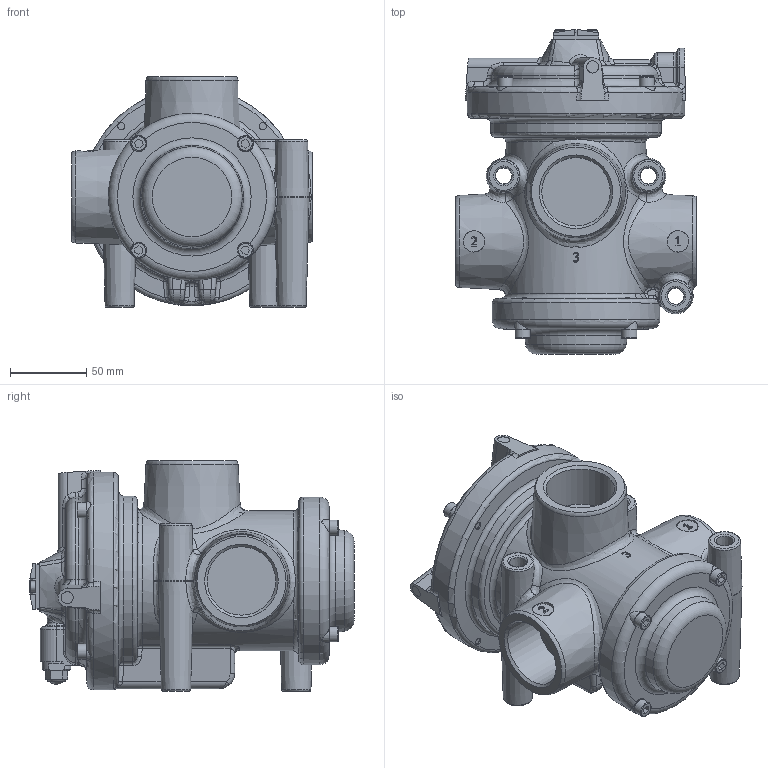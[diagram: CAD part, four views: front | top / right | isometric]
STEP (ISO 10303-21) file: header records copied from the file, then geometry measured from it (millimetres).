
FILE_DESCRIPTION(/* description */ ('V.OTT. x VUOTO 3/2 NC-NA PNEUM-MOLLA'),/* implementation_level */ '2;1');
FILE_NAME(/* name */ 'C:\PNX_VAULTFOLDER\Area Tecnica\Disegni\VARIE-3D\Componenti\1900 (vuoto)\N776-V_32_11_1.stp',/* time_stamp */ '2018-06-18T15:52:05+02:00',/* author */ ('maniean1'),/* organization */ ('Pneumax S.p.A.'),/* preprocessor_version */ 'ST-DEVELOPER v16.5',/* originating_system */ 'Autodesk Inventor 2017',/* authorisation */ '');
FILE_SCHEMA (('AUTOMOTIVE_DESIGN { 1 0 10303 214 3 1 1 }'));
Length unit declared in the file: millimetre
Products named in the file (1): N776/V.32.11.1
Bounding box: 158 x 213 x 151.5 mm (x, y, z)
Volume: 1898202.7 mm3; surface area: 167980.9 mm2
Topology: 1 solids, 20 shells, 929 faces, 2340 edges, 1481 vertices
Faces by surface type: plane 369, bspline 198, cylinder 196, cone 87, torus 69, sphere 10
Full cylindrical faces by diameter (mm): 3.242 x2, 4 x2, 4.2 x2, 4.917 x8, 6 x9, 7 x2, 8 x4, 8.68 x1, 10 x8, 14 x2, 18 x1, 19 x1, 45 x3, 100 x2, 110 x1, 143 x1
Entity records: 35648 total; most frequent: CARTESIAN_POINT 14354, ORIENTED_EDGE 4214, DIRECTION 3910, EDGE_CURVE 2107, AXIS2_PLACEMENT_3D 1507, VERTEX_POINT 1397, EDGE_LOOP 1140, FACE_OUTER_BOUND 929
